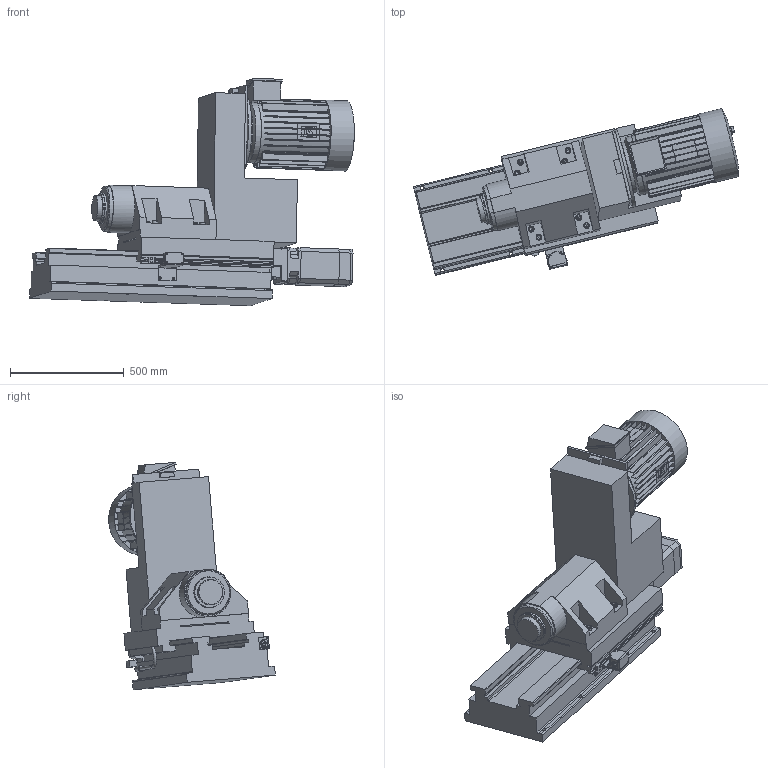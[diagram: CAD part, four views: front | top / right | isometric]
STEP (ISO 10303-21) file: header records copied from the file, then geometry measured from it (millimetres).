
FILE_DESCRIPTION((''),'2;1');
FILE_NAME('C:\VaultWork\Zeichnungen\Maßblätter\BF5b\BF01394-1-0 Maßblatt BF5b-H400-me-400 Hub.stp','2009-05-07T16:00:32',('Test'),(''),'Autodesk Inventor 2008','Autodesk Inventor 2008','');
FILE_SCHEMA(('AUTOMOTIVE_DESIGN { 1 0 10303 214 1 1 1 1 }'));
Length unit declared in the file: millimetre
Products named in the file (1): BF01394-1-0 Maßblatt BF5b-H400-me-400 Hub
Bounding box: 1428.01 x 732.15 x 999.36 mm (x, y, z)
Volume: 193063461.6 mm3; surface area: 5349803.5 mm2
Topology: 16 solids, 16 shells, 1130 faces, 3030 edges, 1968 vertices
Faces by surface type: plane 790, cylinder 179, bspline 100, cone 35, torus 24, sphere 2
Full cylindrical faces by diameter (mm): 3.8 x2, 4 x2, 4.917 x2, 5.9 x2, 6 x4, 6.6 x2, 9.98 x2, 10 x5, 11 x4, 13 x6, 16 x8, 18.5 x4, 20 x2, 22 x1, 24 x9, 25 x1, 32 x1, 35 x1, 40 x1, 42.3 x1, 45 x1, 110 x1, 118 x1, 122 x1, 128 x1, 128.5 x1, 134 x1, 135 x1, 228 x1, 238 x1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
Entity records: 36813 total; most frequent: CARTESIAN_POINT 8659, ORIENTED_EDGE 5640, DIRECTION 5183, EDGE_CURVE 2820, VECTOR 2017, LINE 2017, VERTEX_POINT 1909, AXIS2_PLACEMENT_3D 1583
